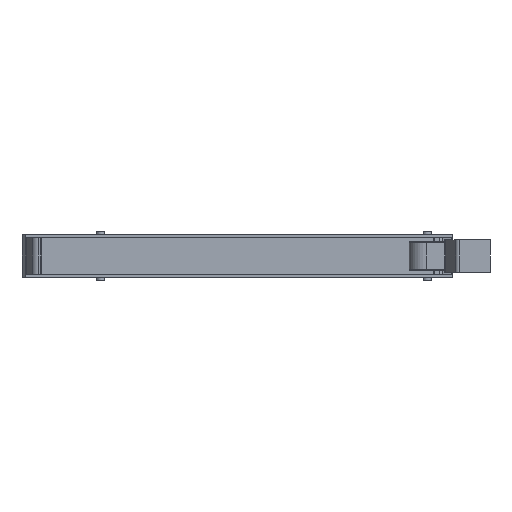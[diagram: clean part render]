
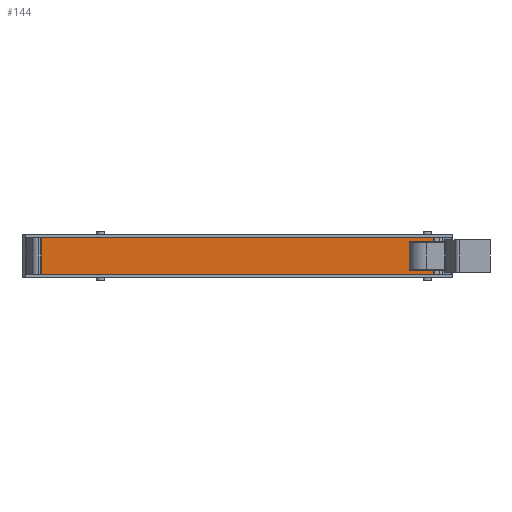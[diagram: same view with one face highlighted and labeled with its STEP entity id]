
A CAD part, front view. The second image highlights one B-rep face of the part: STEP entity #144.
In plain terms, the highlighted planar face has unit normal (0, -1, 0).
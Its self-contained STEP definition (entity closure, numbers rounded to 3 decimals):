
#23 = CARTESIAN_POINT ( 'NONE',  ( -113.5, -59.5, -249.682 ) ) ;
#144 = ADVANCED_FACE ( 'NONE', ( #2295 ), #4169, .T. ) ;
#221 = DIRECTION ( 'NONE',  ( 0., 0., 1. ) ) ;
#298 = CARTESIAN_POINT ( 'NONE',  ( -113.5, -59.5, 1.7 ) ) ;
#377 = VECTOR ( 'NONE', #2241, 1000. ) ;
#386 = CARTESIAN_POINT ( 'NONE',  ( -113.5, -59.5, 23.3 ) ) ;
#446 = VERTEX_POINT ( 'NONE', #1474 ) ;
#861 = DIRECTION ( 'NONE',  ( 0., 0., 1. ) ) ;
#941 = LINE ( 'NONE', #298, #4714 ) ;
#1080 = ORIENTED_EDGE ( 'NONE', *, *, #1616, .F. ) ;
#1242 = ORIENTED_EDGE ( 'NONE', *, *, #3193, .F. ) ;
#1317 = CARTESIAN_POINT ( 'NONE',  ( -113.5, -59.5, -249.682 ) ) ;
#1436 = VERTEX_POINT ( 'NONE', #3982 ) ;
#1474 = CARTESIAN_POINT ( 'NONE',  ( -113.5, -59.5, 23.3 ) ) ;
#1616 = EDGE_CURVE ( 'NONE', #446, #1436, #2447, .T. ) ;
#1628 = DIRECTION ( 'NONE',  ( 0., -1., 0. ) ) ;
#1695 = ORIENTED_EDGE ( 'NONE', *, *, #3054, .T. ) ;
#2241 = DIRECTION ( 'NONE',  ( 1., 0., 0. ) ) ;
#2295 = FACE_OUTER_BOUND ( 'NONE', #3379, .T. ) ;
#2306 = CARTESIAN_POINT ( 'NONE',  ( 117., -59.5, 1.7 ) ) ;
#2327 = LINE ( 'NONE', #4128, #3176 ) ;
#2447 = LINE ( 'NONE', #386, #377 ) ;
#2872 = EDGE_CURVE ( 'NONE', #3026, #3259, #941, .T. ) ;
#3026 = VERTEX_POINT ( 'NONE', #2306 ) ;
#3054 = EDGE_CURVE ( 'NONE', #3026, #1436, #2327, .T. ) ;
#3176 = VECTOR ( 'NONE', #861, 1000. ) ;
#3193 = EDGE_CURVE ( 'NONE', #3259, #446, #4434, .T. ) ;
#3238 = DIRECTION ( 'NONE',  ( -1., 0., 0. ) ) ;
#3259 = VERTEX_POINT ( 'NONE', #4642 ) ;
#3302 = AXIS2_PLACEMENT_3D ( 'NONE', #23, #1628, #3812 ) ;
#3379 = EDGE_LOOP ( 'NONE', ( #1242, #4163, #1695, #1080 ) ) ;
#3812 = DIRECTION ( 'NONE',  ( 0., 0., -1. ) ) ;
#3982 = CARTESIAN_POINT ( 'NONE',  ( 117., -59.5, 23.3 ) ) ;
#4081 = VECTOR ( 'NONE', #221, 1000. ) ;
#4128 = CARTESIAN_POINT ( 'NONE',  ( 117., -59.5, -249.682 ) ) ;
#4163 = ORIENTED_EDGE ( 'NONE', *, *, #2872, .F. ) ;
#4169 = PLANE ( 'NONE',  #3302 ) ;
#4434 = LINE ( 'NONE', #1317, #4081 ) ;
#4642 = CARTESIAN_POINT ( 'NONE',  ( -113.5, -59.5, 1.7 ) ) ;
#4714 = VECTOR ( 'NONE', #3238, 1000. ) ;
